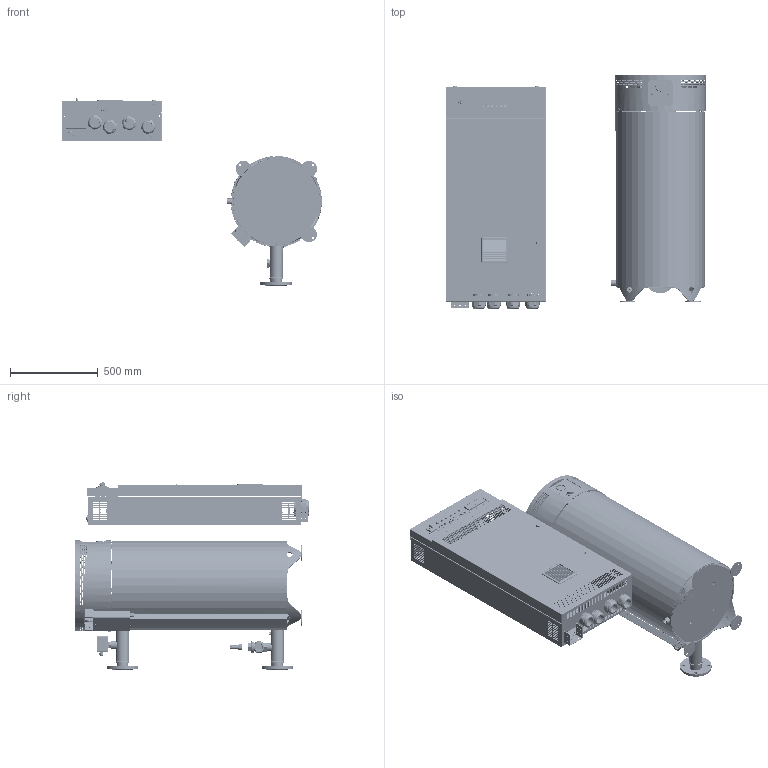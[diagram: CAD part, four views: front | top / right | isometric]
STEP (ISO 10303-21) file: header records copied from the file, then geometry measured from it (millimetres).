
FILE_DESCRIPTION(/* description */ (''),/* implementation_level */ '2;1');
FILE_NAME(/* name */ '\\fs01.nvsk.local\FileServer\!!!Обмен файлами\Маркелова Л.В\Задача 144\300-325\Электрокотёл 300-325 кВт_Shrinkwrap_1.stp',/* time_stamp */ '2022-07-11T10:21:44+03:00',/* author */ ('nvsk-constr2'),/* organization */ (''),/* preprocessor_version */ 'ST-DEVELOPER v18.1',/* originating_system */ 'Autodesk Inventor 2021',/* authorisation */ '');
FILE_SCHEMA (('CONFIG_CONTROL_DESIGN'));
Products named in the file (1): Электрокотёл 
300-325 кВт_Shrinkwrap_1
Bounding box: 1482.42 x 1333 x 1068.89 mm (x, y, z)
Volume: 514207.7 mm3; surface area: 13742371 mm2
Topology: 5 solids, 78 shells, 3813 faces, 12500 edges, 8583 vertices
Faces by surface type: plane 1936, cylinder 1457, cone 202, torus 134, bspline 51, sphere 33
Full cylindrical faces by diameter (mm): 3.5 x8, 4 x8, 4.317 x2, 4.5 x5, 4.9 x2, 5.5 x5, 5.9 x3, 6 x10, 6.5 x12, 7 x24, 7.119 x1, 7.834 x2, 8 x4, 8.5 x8, 8.8 x2, 9 x7, 9.5 x7, 9.936 x1, 10 x13, 10.106 x2, 11.433 x2, 11.5 x9, 11.63 x2, 12 x2, 13 x10, 13.562 x1, 14 x10, 14.367 x2, 14.63 x1, 14.778 x2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
Entity records: 156681 total; most frequent: CARTESIAN_POINT 39383, DIRECTION 23774, ORIENTED_EDGE 22549, EDGE_CURVE 12499, VERTEX_POINT 8582, AXIS2_PLACEMENT_3D 8404, LINE 6966, VECTOR 6966
